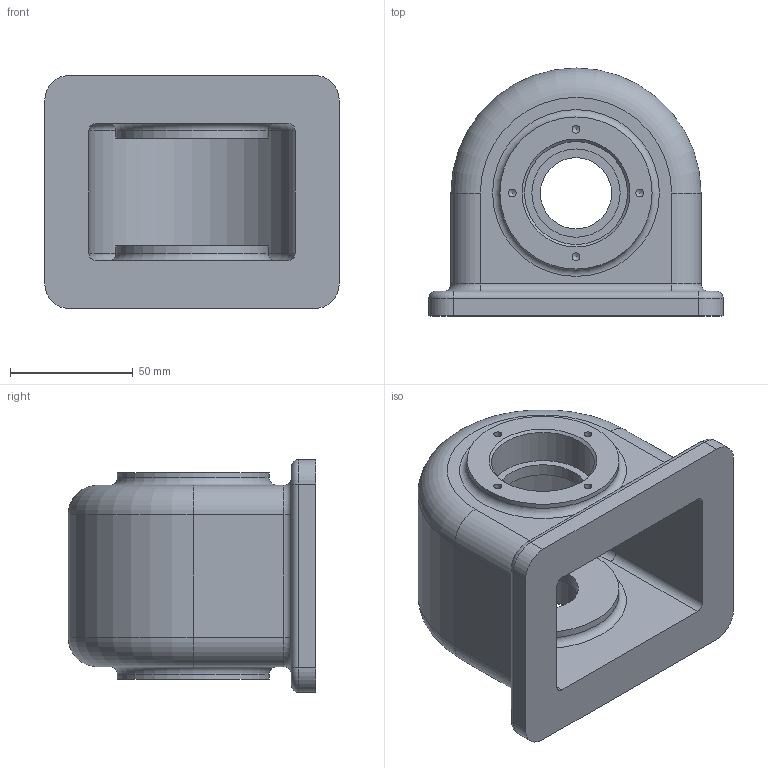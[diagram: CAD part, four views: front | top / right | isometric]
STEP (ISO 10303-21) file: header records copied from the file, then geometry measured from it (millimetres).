
FILE_DESCRIPTION((''),'2;1');
FILE_NAME('C:\Users\Administrator\Desktop\380736E1009\380736E1009-본체.stp','2018-07-21T16:19:26',('Administrator'),(''),'Autodesk Inventor 2013','Autodesk Inventor 2013','');
FILE_SCHEMA(('AUTOMOTIVE_DESIGN { 1 0 10303 214 1 1 1 1 }'));
Length unit declared in the file: millimetre
Products named in the file (1): 1
Bounding box: 120 x 101 x 95 mm (x, y, z)
Volume: 336996.5 mm3; surface area: 76853.7 mm2
Topology: 1 solids, 1 shells, 84 faces, 184 edges, 110 vertices
Faces by surface type: cylinder 38, plane 20, torus 16, cone 10
Full cylindrical faces by diameter (mm): 3.242 x8, 29 x1, 35 x1, 36 x1, 42 x1, 62 x4
Entity records: 2110 total; most frequent: DIRECTION 410, CARTESIAN_POINT 333, ORIENTED_EDGE 292, AXIS2_PLACEMENT_3D 179, EDGE_CURVE 146, EDGE_LOOP 126, VERTEX_POINT 102, CIRCLE 94
